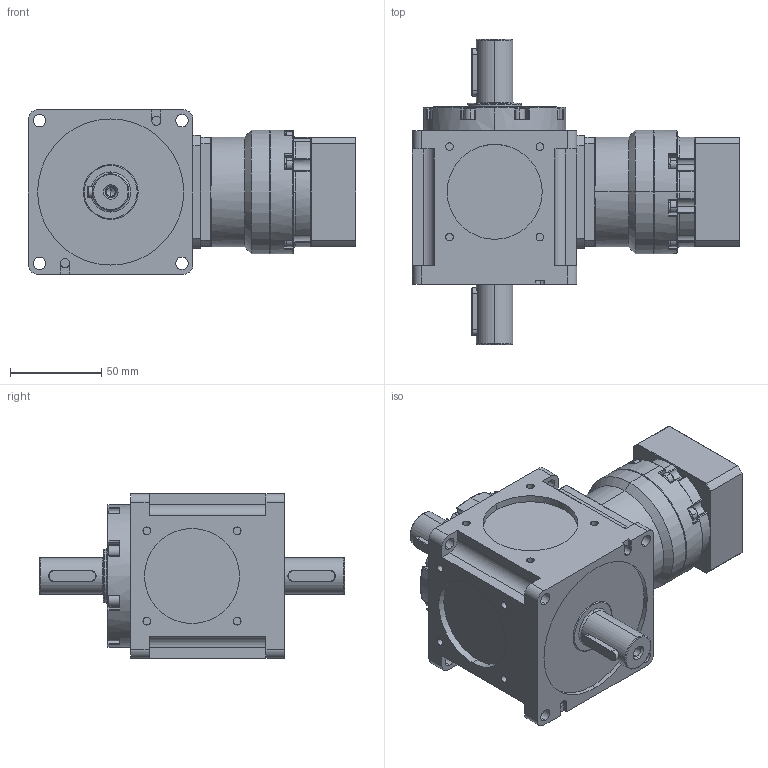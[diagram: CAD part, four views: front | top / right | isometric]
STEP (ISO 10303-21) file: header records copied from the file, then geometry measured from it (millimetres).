
FILE_DESCRIPTION (( 'STEP AP214' ), '1' );
FILE_NAME ('CCW090A-L1(6-20)-2P 14-50-70-M5.STEP', '2025-06-03T02:19:53', ( '微软用户' ), ( '微软中国' ), 'SwSTEP 2.0', 'SolidWorks 2024', '' );
FILE_SCHEMA (( 'AUTOMOTIVE_DESIGN' ));
Length unit declared in the file: millimetre
Products named in the file (3): CCW090A-002-2P箱体; CCW090A-L1(6-20)-2P 14-50-70-M5; VRB-060-L1-S2-P1 14-50-70-M5
Assembly tree (2 placements, depth 2):
  CCW090A-L1(6-20)-2P 14-50-70-M5
    CCW090A-002-2P箱体
    VRB-060-L1-S2-P1 14-50-70-M5
Bounding box: 179 x 167 x 90 mm (x, y, z)
Volume: 919419.5 mm3; surface area: 134032.9 mm2
Topology: 33 solids, 33 shells, 1479 faces, 3617 edges, 2249 vertices
Faces by surface type: plane 570, cylinder 562, cone 224, torus 91, sphere 20, bspline 12
Entity records: 44492 total; most frequent: CARTESIAN_POINT 8747, DIRECTION 7892, ORIENTED_EDGE 7078, EDGE_CURVE 3539, AXIS2_PLACEMENT_3D 3115, VERTEX_POINT 2241, LINE 1662, VECTOR 1662
